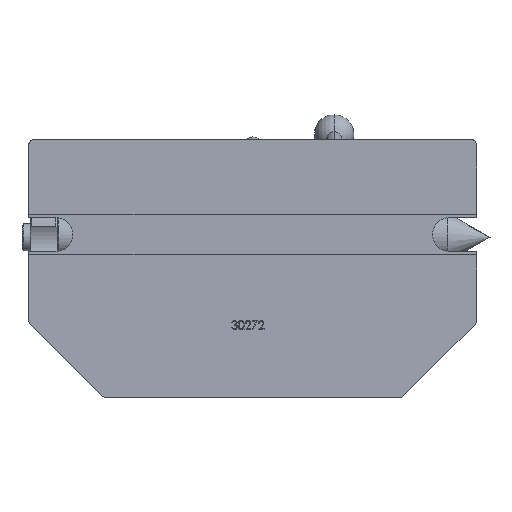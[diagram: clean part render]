
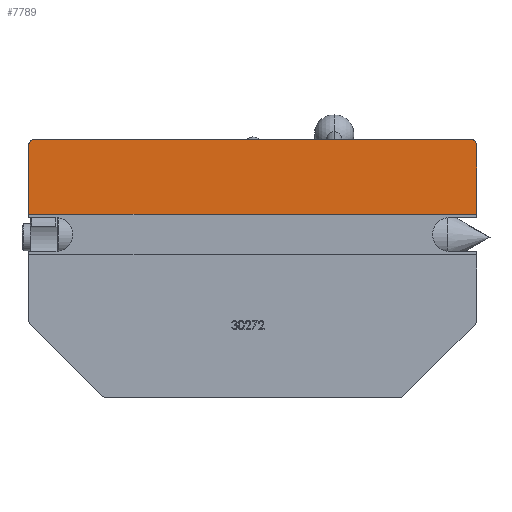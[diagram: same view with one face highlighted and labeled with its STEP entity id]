
A CAD part, front view. The second image highlights one B-rep face of the part: STEP entity #7789.
In plain terms, the highlighted planar face has unit normal (0, -1, 0).
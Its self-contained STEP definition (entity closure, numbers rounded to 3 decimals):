
#2023 = FACE_OUTER_BOUND ( 'NONE', #8292, .T. ) ;
#2948 = CIRCLE ( 'NONE', #15823, 2. ) ;
#2982 = CIRCLE ( 'NONE', #15828, 2. ) ;
#2985 = LINE ( 'NONE', #17265, #2988 ) ;
#2988 = VECTOR ( 'NONE', #17266, 1000. ) ;
#2989 = LINE ( 'NONE', #17269, #2992 ) ;
#2992 = VECTOR ( 'NONE', #17270, 1000. ) ;
#3004 = LINE ( 'NONE', #17286, #3007 ) ;
#3007 = VECTOR ( 'NONE', #17287, 1000. ) ;
#3032 = LINE ( 'NONE', #17567, #3034 ) ;
#3034 = VECTOR ( 'NONE', #17582, 1000. ) ;
#3776 = PLANE ( 'NONE',  #15648 ) ;
#3778 = CARTESIAN_POINT ( 'NONE',  ( 82.5, 0., 35. ) ) ;
#3783 = DIRECTION ( 'NONE',  ( 0., 1., 0. ) ) ;
#3784 = DIRECTION ( 'NONE',  ( 0., 0., 1. ) ) ;
#7789 = ADVANCED_FACE ( 'NONE', ( #2023 ), #3776, .F. ) ;
#8292 = EDGE_LOOP ( 'NONE', ( #20566, #20567, #20568, #20569, #20571, #20572 ) ) ;
#10799 = EDGE_CURVE ( 'NONE', #13273, #13268, #2948, .T. ) ;
#10845 = EDGE_CURVE ( 'NONE', #13270, #13250, #2982, .T. ) ;
#10850 = EDGE_CURVE ( 'NONE', #13247, #13269, #2985, .T. ) ;
#10854 = EDGE_CURVE ( 'NONE', #13268, #13270, #2989, .T. ) ;
#10872 = EDGE_CURVE ( 'NONE', #13273, #13269, #3004, .T. ) ;
#10942 = EDGE_CURVE ( 'NONE', #13250, #13247, #3032, .T. ) ;
#13247 = VERTEX_POINT ( 'NONE', #17959 ) ;
#13250 = VERTEX_POINT ( 'NONE', #17962 ) ;
#13268 = VERTEX_POINT ( 'NONE', #17980 ) ;
#13269 = VERTEX_POINT ( 'NONE', #17981 ) ;
#13270 = VERTEX_POINT ( 'NONE', #17982 ) ;
#13273 = VERTEX_POINT ( 'NONE', #17985 ) ;
#15648 = AXIS2_PLACEMENT_3D ( 'NONE', #3778, #3783, #3784 ) ;
#15823 = AXIS2_PLACEMENT_3D ( 'NONE', #17213, #17214, #17215 ) ;
#15828 = AXIS2_PLACEMENT_3D ( 'NONE', #17262, #17263, #17264 ) ;
#17213 = CARTESIAN_POINT ( 'NONE',  ( 80.5, 0., 33. ) ) ;
#17214 = DIRECTION ( 'NONE',  ( 0., -1., 0. ) ) ;
#17215 = DIRECTION ( 'NONE',  ( 0., 0., 1. ) ) ;
#17262 = CARTESIAN_POINT ( 'NONE',  ( -80.5, 0., 33. ) ) ;
#17263 = DIRECTION ( 'NONE',  ( 0., -1., 0. ) ) ;
#17264 = DIRECTION ( 'NONE',  ( 0., 0., 1. ) ) ;
#17265 = CARTESIAN_POINT ( 'NONE',  ( -100., 0., 7.5 ) ) ;
#17266 = DIRECTION ( 'NONE',  ( 1., 0., 0. ) ) ;
#17269 = CARTESIAN_POINT ( 'NONE',  ( 82.5, 0., 35. ) ) ;
#17270 = DIRECTION ( 'NONE',  ( -1., 0., 0. ) ) ;
#17286 = CARTESIAN_POINT ( 'NONE',  ( 82.5, 0., 35. ) ) ;
#17287 = DIRECTION ( 'NONE',  ( 0., 0., -1. ) ) ;
#17567 = CARTESIAN_POINT ( 'NONE',  ( -82.5, 0., 35. ) ) ;
#17582 = DIRECTION ( 'NONE',  ( 0., 0., -1. ) ) ;
#17959 = CARTESIAN_POINT ( 'NONE',  ( -82.5, 0., 7.5 ) ) ;
#17962 = CARTESIAN_POINT ( 'NONE',  ( -82.5, 0., 33. ) ) ;
#17980 = CARTESIAN_POINT ( 'NONE',  ( 80.5, 0., 35. ) ) ;
#17981 = CARTESIAN_POINT ( 'NONE',  ( 82.5, 0., 7.5 ) ) ;
#17982 = CARTESIAN_POINT ( 'NONE',  ( -80.5, 0., 35. ) ) ;
#17985 = CARTESIAN_POINT ( 'NONE',  ( 82.5, 0., 33. ) ) ;
#20566 = ORIENTED_EDGE ( 'NONE', *, *, #10854, .T. ) ;
#20567 = ORIENTED_EDGE ( 'NONE', *, *, #10845, .T. ) ;
#20568 = ORIENTED_EDGE ( 'NONE', *, *, #10942, .T. ) ;
#20569 = ORIENTED_EDGE ( 'NONE', *, *, #10850, .T. ) ;
#20571 = ORIENTED_EDGE ( 'NONE', *, *, #10872, .F. ) ;
#20572 = ORIENTED_EDGE ( 'NONE', *, *, #10799, .T. ) ;
